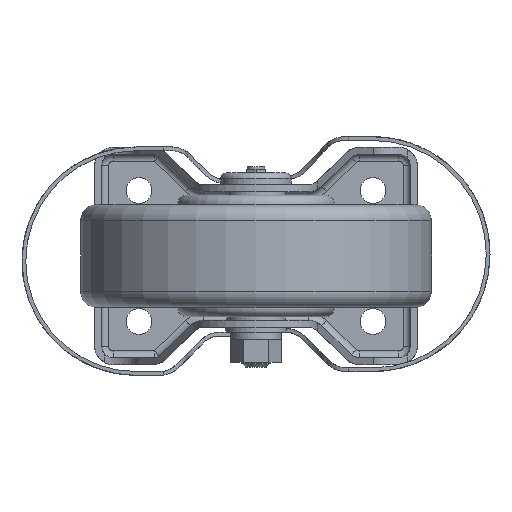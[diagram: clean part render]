
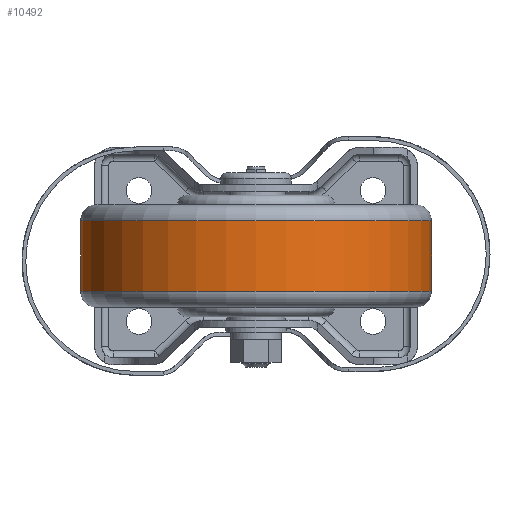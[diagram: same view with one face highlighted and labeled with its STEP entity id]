
A CAD part, front view. The second image highlights one B-rep face of the part: STEP entity #10492.
In plain terms, the highlighted cylindrical face has radius 75 mm (diameter 150 mm), a partial arc.
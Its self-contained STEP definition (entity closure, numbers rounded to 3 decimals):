
#64 = AXIS2_PLACEMENT_3D ( 'NONE', #3796, #7438, #10320 ) ;
#334 = CIRCLE ( 'NONE', #64, 75. ) ;
#590 = FACE_OUTER_BOUND ( 'NONE', #6992, .T. ) ;
#779 = CARTESIAN_POINT ( 'NONE',  ( 75., 0., -15. ) ) ;
#824 = CARTESIAN_POINT ( 'NONE',  ( 75., 0., 34.804 ) ) ;
#1343 = ORIENTED_EDGE ( 'NONE', *, *, #10060, .T. ) ;
#1388 = VECTOR ( 'NONE', #9544, 1000. ) ;
#2080 = AXIS2_PLACEMENT_3D ( 'NONE', #6860, #3655, #9159 ) ;
#2325 = ORIENTED_EDGE ( 'NONE', *, *, #6423, .F. ) ;
#2513 = CARTESIAN_POINT ( 'NONE',  ( 0., 0., 15. ) ) ;
#3281 = DIRECTION ( 'NONE',  ( 1., 0., 0. ) ) ;
#3305 = LINE ( 'NONE', #824, #5993 ) ;
#3588 = CARTESIAN_POINT ( 'NONE',  ( -75., 0., -15. ) ) ;
#3655 = DIRECTION ( 'NONE',  ( 0., 0., 1. ) ) ;
#3796 = CARTESIAN_POINT ( 'NONE',  ( 0., 0., -15. ) ) ;
#3835 = CARTESIAN_POINT ( 'NONE',  ( 75., 0., 15. ) ) ;
#3890 = CYLINDRICAL_SURFACE ( 'NONE', #2080, 75. ) ;
#5311 = CARTESIAN_POINT ( 'NONE',  ( -75., 0., 15. ) ) ;
#5642 = AXIS2_PLACEMENT_3D ( 'NONE', #2513, #7214, #3281 ) ;
#5993 = VECTOR ( 'NONE', #9891, 1000. ) ;
#6423 = EDGE_CURVE ( 'NONE', #9344, #7480, #7288, .T. ) ;
#6552 = LINE ( 'NONE', #10327, #1388 ) ;
#6739 = VERTEX_POINT ( 'NONE', #779 ) ;
#6860 = CARTESIAN_POINT ( 'NONE',  ( 0., 0., 34.804 ) ) ;
#6992 = EDGE_LOOP ( 'NONE', ( #7252, #1343, #8658, #2325 ) ) ;
#7214 = DIRECTION ( 'NONE',  ( 0., 0., 1. ) ) ;
#7252 = ORIENTED_EDGE ( 'NONE', *, *, #10522, .F. ) ;
#7288 = CIRCLE ( 'NONE', #5642, 75. ) ;
#7438 = DIRECTION ( 'NONE',  ( 0., 0., 1. ) ) ;
#7480 = VERTEX_POINT ( 'NONE', #3835 ) ;
#8658 = ORIENTED_EDGE ( 'NONE', *, *, #10392, .T. ) ;
#8729 = VERTEX_POINT ( 'NONE', #3588 ) ;
#9159 = DIRECTION ( 'NONE',  ( 1., 0., 0. ) ) ;
#9344 = VERTEX_POINT ( 'NONE', #5311 ) ;
#9544 = DIRECTION ( 'NONE',  ( 0., 0., 1. ) ) ;
#9891 = DIRECTION ( 'NONE',  ( 0., 0., 1. ) ) ;
#10060 = EDGE_CURVE ( 'NONE', #8729, #6739, #334, .T. ) ;
#10320 = DIRECTION ( 'NONE',  ( 1., 0., 0. ) ) ;
#10327 = CARTESIAN_POINT ( 'NONE',  ( -75., 0., 34.804 ) ) ;
#10392 = EDGE_CURVE ( 'NONE', #6739, #7480, #3305, .T. ) ;
#10492 = ADVANCED_FACE ( 'NONE', ( #590 ), #3890, .T. ) ;
#10522 = EDGE_CURVE ( 'NONE', #8729, #9344, #6552, .T. ) ;
